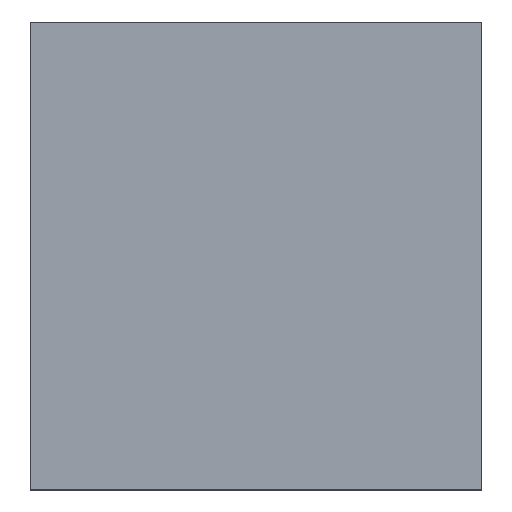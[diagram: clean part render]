
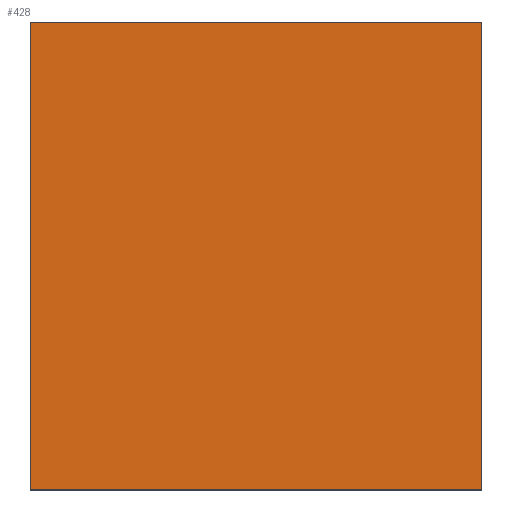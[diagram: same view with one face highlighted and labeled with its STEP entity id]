
A CAD part, top view. The second image highlights one B-rep face of the part: STEP entity #428.
In plain terms, the highlighted planar face has unit normal (0, 0, 1).
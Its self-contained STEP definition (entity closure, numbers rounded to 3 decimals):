
#21 = EDGE_CURVE('',#22,#24,#26,.T.);
#22 = VERTEX_POINT('',#23);
#23 = CARTESIAN_POINT('',(-0.675,-0.7,0.45));
#24 = VERTEX_POINT('',#25);
#25 = CARTESIAN_POINT('',(-0.675,0.7,0.45));
#26 = SURFACE_CURVE('',#27,(#31,#43),.PCURVE_S1.);
#27 = LINE('',#28,#29);
#28 = CARTESIAN_POINT('',(-0.675,-0.7,0.45));
#29 = VECTOR('',#30,1.);
#30 = DIRECTION('',(0.,1.,0.));
#31 = PCURVE('',#32,#37);
#32 = PLANE('',#33);
#33 = AXIS2_PLACEMENT_3D('',#34,#35,#36);
#34 = CARTESIAN_POINT('',(-0.675,-0.7,0.02));
#35 = DIRECTION('',(1.,0.,0.));
#36 = DIRECTION('',(0.,0.,1.));
#37 = DEFINITIONAL_REPRESENTATION('',(#38),#42);
#38 = LINE('',#39,#40);
#39 = CARTESIAN_POINT('',(0.43,0.));
#40 = VECTOR('',#41,1.);
#41 = DIRECTION('',(0.,-1.));
#42 = ( GEOMETRIC_REPRESENTATION_CONTEXT(2) 
PARAMETRIC_REPRESENTATION_CONTEXT() REPRESENTATION_CONTEXT('2D SPACE',''
  ) );
#43 = PCURVE('',#44,#49);
#44 = PLANE('',#45);
#45 = AXIS2_PLACEMENT_3D('',#46,#47,#48);
#46 = CARTESIAN_POINT('',(-0.675,-0.7,0.45));
#47 = DIRECTION('',(0.,0.,1.));
#48 = DIRECTION('',(1.,0.,0.));
#49 = DEFINITIONAL_REPRESENTATION('',(#50),#54);
#50 = LINE('',#51,#52);
#51 = CARTESIAN_POINT('',(0.,0.));
#52 = VECTOR('',#53,1.);
#53 = DIRECTION('',(0.,1.));
#54 = ( GEOMETRIC_REPRESENTATION_CONTEXT(2) 
PARAMETRIC_REPRESENTATION_CONTEXT() REPRESENTATION_CONTEXT('2D SPACE',''
  ) );
#72 = PLANE('',#73);
#73 = AXIS2_PLACEMENT_3D('',#74,#75,#76);
#74 = CARTESIAN_POINT('',(-0.675,-0.7,0.02));
#75 = DIRECTION('',(0.,1.,0.));
#76 = DIRECTION('',(0.,0.,1.));
#417 = PLANE('',#418);
#418 = AXIS2_PLACEMENT_3D('',#419,#420,#421);
#419 = CARTESIAN_POINT('',(-0.675,0.7,0.02));
#420 = DIRECTION('',(0.,1.,0.));
#421 = DIRECTION('',(0.,0.,1.));
#428 = ADVANCED_FACE('',(#429),#44,.T.);
#429 = FACE_BOUND('',#430,.T.);
#430 = EDGE_LOOP('',(#431,#432,#455,#483));
#431 = ORIENTED_EDGE('',*,*,#21,.F.);
#432 = ORIENTED_EDGE('',*,*,#433,.T.);
#433 = EDGE_CURVE('',#22,#434,#436,.T.);
#434 = VERTEX_POINT('',#435);
#435 = CARTESIAN_POINT('',(0.675,-0.7,0.45));
#436 = SURFACE_CURVE('',#437,(#441,#448),.PCURVE_S1.);
#437 = LINE('',#438,#439);
#438 = CARTESIAN_POINT('',(-0.675,-0.7,0.45));
#439 = VECTOR('',#440,1.);
#440 = DIRECTION('',(1.,0.,0.));
#441 = PCURVE('',#44,#442);
#442 = DEFINITIONAL_REPRESENTATION('',(#443),#447);
#443 = LINE('',#444,#445);
#444 = CARTESIAN_POINT('',(0.,0.));
#445 = VECTOR('',#446,1.);
#446 = DIRECTION('',(1.,0.));
#447 = ( GEOMETRIC_REPRESENTATION_CONTEXT(2) 
PARAMETRIC_REPRESENTATION_CONTEXT() REPRESENTATION_CONTEXT('2D SPACE',''
  ) );
#448 = PCURVE('',#72,#449);
#449 = DEFINITIONAL_REPRESENTATION('',(#450),#454);
#450 = LINE('',#451,#452);
#451 = CARTESIAN_POINT('',(0.43,0.));
#452 = VECTOR('',#453,1.);
#453 = DIRECTION('',(0.,1.));
#454 = ( GEOMETRIC_REPRESENTATION_CONTEXT(2) 
PARAMETRIC_REPRESENTATION_CONTEXT() REPRESENTATION_CONTEXT('2D SPACE',''
  ) );
#455 = ORIENTED_EDGE('',*,*,#456,.T.);
#456 = EDGE_CURVE('',#434,#457,#459,.T.);
#457 = VERTEX_POINT('',#458);
#458 = CARTESIAN_POINT('',(0.675,0.7,0.45));
#459 = SURFACE_CURVE('',#460,(#464,#471),.PCURVE_S1.);
#460 = LINE('',#461,#462);
#461 = CARTESIAN_POINT('',(0.675,-0.7,0.45));
#462 = VECTOR('',#463,1.);
#463 = DIRECTION('',(0.,1.,0.));
#464 = PCURVE('',#44,#465);
#465 = DEFINITIONAL_REPRESENTATION('',(#466),#470);
#466 = LINE('',#467,#468);
#467 = CARTESIAN_POINT('',(1.35,0.));
#468 = VECTOR('',#469,1.);
#469 = DIRECTION('',(0.,1.));
#470 = ( GEOMETRIC_REPRESENTATION_CONTEXT(2) 
PARAMETRIC_REPRESENTATION_CONTEXT() REPRESENTATION_CONTEXT('2D SPACE',''
  ) );
#471 = PCURVE('',#472,#477);
#472 = PLANE('',#473);
#473 = AXIS2_PLACEMENT_3D('',#474,#475,#476);
#474 = CARTESIAN_POINT('',(0.675,-0.7,0.02));
#475 = DIRECTION('',(1.,0.,0.));
#476 = DIRECTION('',(0.,0.,1.));
#477 = DEFINITIONAL_REPRESENTATION('',(#478),#482);
#478 = LINE('',#479,#480);
#479 = CARTESIAN_POINT('',(0.43,0.));
#480 = VECTOR('',#481,1.);
#481 = DIRECTION('',(0.,-1.));
#482 = ( GEOMETRIC_REPRESENTATION_CONTEXT(2) 
PARAMETRIC_REPRESENTATION_CONTEXT() REPRESENTATION_CONTEXT('2D SPACE',''
  ) );
#483 = ORIENTED_EDGE('',*,*,#484,.F.);
#484 = EDGE_CURVE('',#24,#457,#485,.T.);
#485 = SURFACE_CURVE('',#486,(#490,#497),.PCURVE_S1.);
#486 = LINE('',#487,#488);
#487 = CARTESIAN_POINT('',(-0.675,0.7,0.45));
#488 = VECTOR('',#489,1.);
#489 = DIRECTION('',(1.,0.,0.));
#490 = PCURVE('',#44,#491);
#491 = DEFINITIONAL_REPRESENTATION('',(#492),#496);
#492 = LINE('',#493,#494);
#493 = CARTESIAN_POINT('',(0.,1.4));
#494 = VECTOR('',#495,1.);
#495 = DIRECTION('',(1.,0.));
#496 = ( GEOMETRIC_REPRESENTATION_CONTEXT(2) 
PARAMETRIC_REPRESENTATION_CONTEXT() REPRESENTATION_CONTEXT('2D SPACE',''
  ) );
#497 = PCURVE('',#417,#498);
#498 = DEFINITIONAL_REPRESENTATION('',(#499),#503);
#499 = LINE('',#500,#501);
#500 = CARTESIAN_POINT('',(0.43,0.));
#501 = VECTOR('',#502,1.);
#502 = DIRECTION('',(0.,1.));
#503 = ( GEOMETRIC_REPRESENTATION_CONTEXT(2) 
PARAMETRIC_REPRESENTATION_CONTEXT() REPRESENTATION_CONTEXT('2D SPACE',''
  ) );
